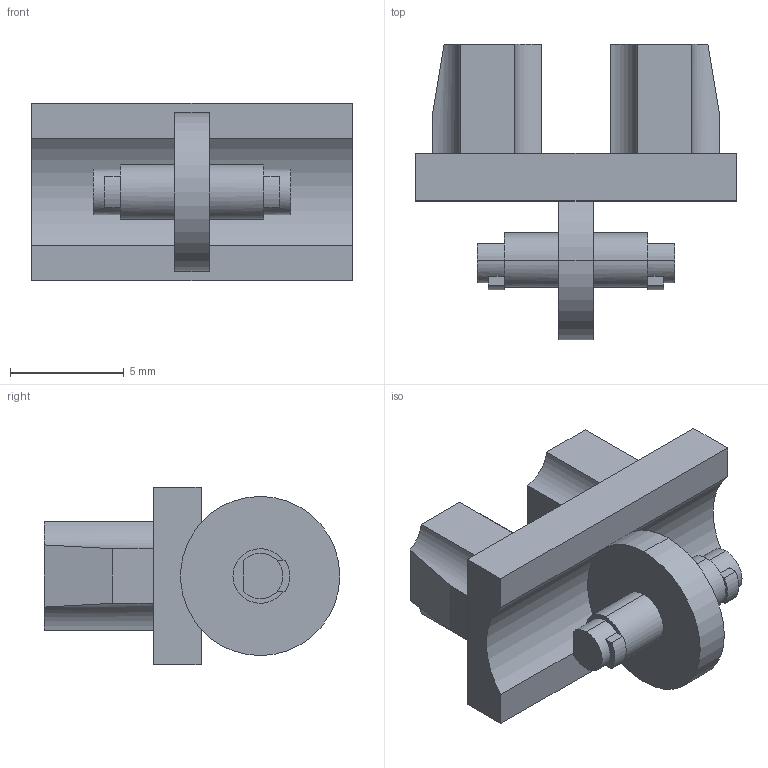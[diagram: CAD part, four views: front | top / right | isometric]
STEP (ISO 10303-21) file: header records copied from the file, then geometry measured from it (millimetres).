
FILE_DESCRIPTION (( 'STEP AP203' ), '1' );
FILE_NAME ('Lego Character - Torso.STEP', '2015-12-11T18:47:48', ( '' ), ( '' ), 'SwSTEP 2.0', 'SolidWorks 2014', '' );
FILE_SCHEMA (( 'CONFIG_CONTROL_DESIGN' ));
Length unit declared in the file: millimetre
Products named in the file (2): Lego Character - Torso
Bounding box: 14.1 x 13 x 7.8 mm (x, y, z)
Volume: 398.6 mm3; surface area: 700.2 mm2
Topology: 1 solids, 1 shells, 70 faces, 178 edges, 116 vertices
Faces by surface type: plane 39, cylinder 31
Entity records: 2283 total; most frequent: DIRECTION 388, CARTESIAN_POINT 378, ORIENTED_EDGE 356, EDGE_CURVE 178, AXIS2_PLACEMENT_3D 142, VERTEX_POINT 116, VECTOR 104, LINE 104
